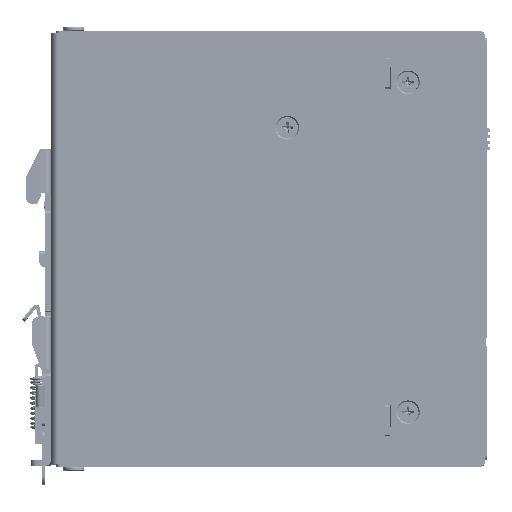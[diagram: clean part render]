
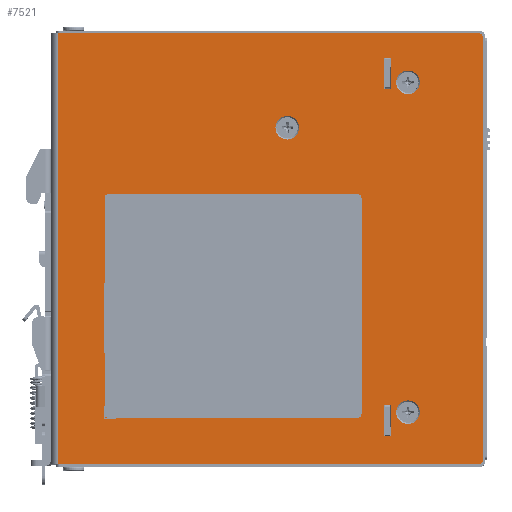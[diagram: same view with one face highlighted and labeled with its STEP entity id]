
A CAD part, top view. The second image highlights one B-rep face of the part: STEP entity #7521.
In plain terms, the highlighted planar face has unit normal (0, 0, 1).
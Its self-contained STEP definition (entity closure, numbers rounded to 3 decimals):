
#1766=DIRECTION('',(0.,-1.,0.));
#1767=VECTOR('',#1766,122.4);
#1768=CARTESIAN_POINT('',(0.5,61.2,25.));
#1769=LINE('',#1768,#1767);
#1780=CARTESIAN_POINT('',(120.1,-60.2,25.));
#1781=DIRECTION('',(0.,0.,-1.));
#1782=DIRECTION('',(1.,0.,0.));
#1783=AXIS2_PLACEMENT_3D('',#1780,#1781,#1782);
#1788=DIRECTION('',(-1.,0.,0.));
#1789=VECTOR('',#1788,119.6);
#1790=CARTESIAN_POINT('',(120.1,-61.2,25.));
#1791=LINE('',#1790,#1789);
#1795=DIRECTION('',(1.,0.,0.));
#1796=VECTOR('',#1795,119.6);
#1797=CARTESIAN_POINT('',(0.5,61.2,25.));
#1798=LINE('',#1797,#1796);
#1802=CARTESIAN_POINT('',(120.1,60.2,25.));
#1803=DIRECTION('',(0.,0.,-1.));
#1804=DIRECTION('',(0.,1.,0.));
#1805=AXIS2_PLACEMENT_3D('',#1802,#1803,#1804);
#1810=DIRECTION('',(0.,-1.,0.));
#1811=VECTOR('',#1810,120.4);
#1812=CARTESIAN_POINT('',(121.1,60.2,25.));
#1813=LINE('',#1812,#1811);
#1817=DIRECTION('',(-1.,0.,0.));
#1818=VECTOR('',#1817,1.9);
#1819=CARTESIAN_POINT('',(95.05,54.3,25.));
#1820=LINE('',#1819,#1818);
#1824=DIRECTION('',(0.,-1.,0.));
#1825=VECTOR('',#1824,8.8);
#1826=CARTESIAN_POINT('',(93.15,54.3,25.));
#1827=LINE('',#1826,#1825);
#1831=DIRECTION('',(1.,0.,0.));
#1832=VECTOR('',#1831,1.9);
#1833=CARTESIAN_POINT('',(93.15,45.5,25.));
#1834=LINE('',#1833,#1832);
#1838=DIRECTION('',(0.,1.,0.));
#1839=VECTOR('',#1838,8.8);
#1840=CARTESIAN_POINT('',(95.05,45.5,25.));
#1841=LINE('',#1840,#1839);
#1845=DIRECTION('',(-1.,0.,0.));
#1846=VECTOR('',#1845,1.9);
#1847=CARTESIAN_POINT('',(95.05,-44.5,25.));
#1848=LINE('',#1847,#1846);
#1852=DIRECTION('',(0.,-1.,0.));
#1853=VECTOR('',#1852,8.8);
#1854=CARTESIAN_POINT('',(93.15,-44.5,25.));
#1855=LINE('',#1854,#1853);
#1859=DIRECTION('',(1.,0.,0.));
#1860=VECTOR('',#1859,1.9);
#1861=CARTESIAN_POINT('',(93.15,-53.3,25.));
#1862=LINE('',#1861,#1860);
#1866=DIRECTION('',(0.,1.,0.));
#1867=VECTOR('',#1866,8.8);
#1868=CARTESIAN_POINT('',(95.05,-53.3,25.));
#1869=LINE('',#1868,#1867);
#1873=CARTESIAN_POINT('',(65.6,34.4,25.));
#1874=DIRECTION('',(0.,0.,1.));
#1875=DIRECTION('',(-1.,0.,0.));
#1876=AXIS2_PLACEMENT_3D('',#1873,#1874,#1875);
#1881=CARTESIAN_POINT('',(65.6,34.4,25.));
#1882=DIRECTION('',(0.,0.,1.));
#1883=DIRECTION('',(1.,0.,0.));
#1884=AXIS2_PLACEMENT_3D('',#1881,#1882,#1883);
#1889=CARTESIAN_POINT('',(99.9,-46.4,25.));
#1890=DIRECTION('',(0.,0.,1.));
#1891=DIRECTION('',(-1.,0.,0.));
#1892=AXIS2_PLACEMENT_3D('',#1889,#1890,#1891);
#1897=CARTESIAN_POINT('',(99.9,-46.4,25.));
#1898=DIRECTION('',(0.,0.,1.));
#1899=DIRECTION('',(1.,0.,0.));
#1900=AXIS2_PLACEMENT_3D('',#1897,#1898,#1899);
#1905=CARTESIAN_POINT('',(99.9,47.3,25.));
#1906=DIRECTION('',(0.,0.,1.));
#1907=DIRECTION('',(-1.,0.,0.));
#1908=AXIS2_PLACEMENT_3D('',#1905,#1906,#1907);
#1913=CARTESIAN_POINT('',(99.9,47.3,25.));
#1914=DIRECTION('',(0.,0.,1.));
#1915=DIRECTION('',(1.,0.,0.));
#1916=AXIS2_PLACEMENT_3D('',#1913,#1914,#1915);
#2357=DIRECTION('',(0.,1.,0.));
#2358=VECTOR('',#2357,20.);
#2359=CARTESIAN_POINT('',(13.5,-29.7,25.));
#2360=LINE('',#2359,#2358);
#2371=DIRECTION('',(1.,0.,0.));
#2372=VECTOR('',#2371,0.2);
#2373=CARTESIAN_POINT('',(13.5,-9.7,25.));
#2374=LINE('',#2373,#2372);
#2385=DIRECTION('',(0.,-1.,0.));
#2386=VECTOR('',#2385,20.);
#2387=CARTESIAN_POINT('',(13.7,-9.7,25.));
#2388=LINE('',#2387,#2386);
#2399=DIRECTION('',(-1.,0.,0.));
#2400=VECTOR('',#2399,0.2);
#2401=CARTESIAN_POINT('',(13.7,-29.7,25.));
#2402=LINE('',#2401,#2400);
#2441=DIRECTION('',(0.,1.,0.));
#2442=VECTOR('',#2441,3.5);
#2443=CARTESIAN_POINT('',(13.5,-48.2,25.));
#2444=LINE('',#2443,#2442);
#2455=DIRECTION('',(1.,0.,0.));
#2456=VECTOR('',#2455,0.2);
#2457=CARTESIAN_POINT('',(13.5,-44.7,25.));
#2458=LINE('',#2457,#2456);
#2469=DIRECTION('',(0.,-1.,0.));
#2470=VECTOR('',#2469,3.3);
#2471=CARTESIAN_POINT('',(13.7,-44.7,25.));
#2472=LINE('',#2471,#2470);
#2483=DIRECTION('',(1.,0.,0.));
#2484=VECTOR('',#2483,3.3);
#2485=CARTESIAN_POINT('',(13.7,-48.,25.));
#2486=LINE('',#2485,#2484);
#2497=DIRECTION('',(0.,-1.,0.));
#2498=VECTOR('',#2497,0.2);
#2499=CARTESIAN_POINT('',(17.,-48.,25.));
#2500=LINE('',#2499,#2498);
#2511=DIRECTION('',(-1.,0.,0.));
#2512=VECTOR('',#2511,3.5);
#2513=CARTESIAN_POINT('',(17.,-48.2,25.));
#2514=LINE('',#2513,#2512);
#6080=CARTESIAN_POINT('',(0.5,61.2,25.));
#6081=VERTEX_POINT('',#6080);
#6084=CARTESIAN_POINT('',(0.5,-61.2,25.));
#6085=VERTEX_POINT('',#6084);
#6086=CARTESIAN_POINT('',(121.1,-60.2,25.));
#6087=CARTESIAN_POINT('',(120.1,-61.2,25.));
#6088=VERTEX_POINT('',#6086);
#6089=VERTEX_POINT('',#6087);
#6090=CARTESIAN_POINT('',(120.1,61.2,25.));
#6091=VERTEX_POINT('',#6090);
#6092=CARTESIAN_POINT('',(121.1,60.2,25.));
#6093=VERTEX_POINT('',#6092);
#6094=CARTESIAN_POINT('',(95.05,54.3,25.));
#6095=CARTESIAN_POINT('',(93.15,54.3,25.));
#6096=VERTEX_POINT('',#6094);
#6097=VERTEX_POINT('',#6095);
#6098=CARTESIAN_POINT('',(93.15,45.5,25.));
#6099=VERTEX_POINT('',#6098);
#6100=CARTESIAN_POINT('',(95.05,45.5,25.));
#6101=VERTEX_POINT('',#6100);
#6102=CARTESIAN_POINT('',(95.05,-44.5,25.));
#6103=CARTESIAN_POINT('',(93.15,-44.5,25.));
#6104=VERTEX_POINT('',#6102);
#6105=VERTEX_POINT('',#6103);
#6106=CARTESIAN_POINT('',(93.15,-53.3,25.));
#6107=VERTEX_POINT('',#6106);
#6108=CARTESIAN_POINT('',(95.05,-53.3,25.));
#6109=VERTEX_POINT('',#6108);
#6110=CARTESIAN_POINT('',(13.5,-29.7,25.));
#6111=CARTESIAN_POINT('',(13.5,-9.7,25.));
#6112=VERTEX_POINT('',#6110);
#6113=VERTEX_POINT('',#6111);
#6114=CARTESIAN_POINT('',(13.7,-29.7,25.));
#6115=VERTEX_POINT('',#6114);
#6116=CARTESIAN_POINT('',(13.7,-9.7,25.));
#6117=VERTEX_POINT('',#6116);
#6118=CARTESIAN_POINT('',(13.5,-48.2,25.));
#6119=CARTESIAN_POINT('',(13.5,-44.7,25.));
#6120=VERTEX_POINT('',#6118);
#6121=VERTEX_POINT('',#6119);
#6122=CARTESIAN_POINT('',(17.,-48.2,25.));
#6123=VERTEX_POINT('',#6122);
#6124=CARTESIAN_POINT('',(17.,-48.,25.));
#6125=VERTEX_POINT('',#6124);
#6126=CARTESIAN_POINT('',(13.7,-48.,25.));
#6127=VERTEX_POINT('',#6126);
#6128=CARTESIAN_POINT('',(13.7,-44.7,25.));
#6129=VERTEX_POINT('',#6128);
#6130=CARTESIAN_POINT('',(62.25,34.4,25.));
#6131=CARTESIAN_POINT('',(68.95,34.4,25.));
#6132=VERTEX_POINT('',#6130);
#6133=VERTEX_POINT('',#6131);
#6134=CARTESIAN_POINT('',(96.55,-46.4,25.));
#6135=CARTESIAN_POINT('',(103.25,-46.4,25.));
#6136=VERTEX_POINT('',#6134);
#6137=VERTEX_POINT('',#6135);
#6138=CARTESIAN_POINT('',(96.55,47.3,25.));
#6139=CARTESIAN_POINT('',(103.25,47.3,25.));
#6140=VERTEX_POINT('',#6138);
#6141=VERTEX_POINT('',#6139);
#7441=CARTESIAN_POINT('',(-1.5,-61.2,25.));
#7442=DIRECTION('',(0.,0.,1.));
#7443=DIRECTION('',(0.,-1.,0.));
#7444=AXIS2_PLACEMENT_3D('',#7441,#7442,#7443);
#7445=PLANE('',#7444);
#7447=ORIENTED_EDGE('',*,*,#7446,.T.);
#7449=ORIENTED_EDGE('',*,*,#7448,.T.);
#7450=ORIENTED_EDGE('',*,*,#7432,.F.);
#7452=ORIENTED_EDGE('',*,*,#7451,.T.);
#7454=ORIENTED_EDGE('',*,*,#7453,.T.);
#7456=ORIENTED_EDGE('',*,*,#7455,.T.);
#7457=EDGE_LOOP('',(#7447,#7449,#7450,#7452,#7454,#7456));
#7458=FACE_OUTER_BOUND('',#7457,.F.);
#7460=ORIENTED_EDGE('',*,*,#7459,.T.);
#7462=ORIENTED_EDGE('',*,*,#7461,.T.);
#7464=ORIENTED_EDGE('',*,*,#7463,.T.);
#7466=ORIENTED_EDGE('',*,*,#7465,.T.);
#7467=EDGE_LOOP('',(#7460,#7462,#7464,#7466));
#7468=FACE_BOUND('',#7467,.F.);
#7470=ORIENTED_EDGE('',*,*,#7469,.T.);
#7472=ORIENTED_EDGE('',*,*,#7471,.T.);
#7474=ORIENTED_EDGE('',*,*,#7473,.T.);
#7476=ORIENTED_EDGE('',*,*,#7475,.T.);
#7477=EDGE_LOOP('',(#7470,#7472,#7474,#7476));
#7478=FACE_BOUND('',#7477,.F.);
#7480=ORIENTED_EDGE('',*,*,#7479,.F.);
#7482=ORIENTED_EDGE('',*,*,#7481,.F.);
#7484=ORIENTED_EDGE('',*,*,#7483,.F.);
#7486=ORIENTED_EDGE('',*,*,#7485,.F.);
#7487=EDGE_LOOP('',(#7480,#7482,#7484,#7486));
#7488=FACE_BOUND('',#7487,.F.);
#7490=ORIENTED_EDGE('',*,*,#7489,.F.);
#7492=ORIENTED_EDGE('',*,*,#7491,.F.);
#7494=ORIENTED_EDGE('',*,*,#7493,.F.);
#7496=ORIENTED_EDGE('',*,*,#7495,.F.);
#7498=ORIENTED_EDGE('',*,*,#7497,.F.);
#7500=ORIENTED_EDGE('',*,*,#7499,.F.);
#7501=EDGE_LOOP('',(#7490,#7492,#7494,#7496,#7498,#7500));
#7502=FACE_BOUND('',#7501,.F.);
#7504=ORIENTED_EDGE('',*,*,#7503,.T.);
#7506=ORIENTED_EDGE('',*,*,#7505,.T.);
#7507=EDGE_LOOP('',(#7504,#7506));
#7508=FACE_BOUND('',#7507,.F.);
#7510=ORIENTED_EDGE('',*,*,#7509,.T.);
#7512=ORIENTED_EDGE('',*,*,#7511,.T.);
#7513=EDGE_LOOP('',(#7510,#7512));
#7514=FACE_BOUND('',#7513,.F.);
#7516=ORIENTED_EDGE('',*,*,#7515,.T.);
#7518=ORIENTED_EDGE('',*,*,#7517,.T.);
#7519=EDGE_LOOP('',(#7516,#7518));
#7520=FACE_BOUND('',#7519,.F.);
#7521=ADVANCED_FACE('',(#7458,#7468,#7478,#7488,#7502,#7508,#7514,#7520),#7445,
.T.);
#1784=CIRCLE('',#1783,1.);
#1806=CIRCLE('',#1805,1.);
#1877=CIRCLE('',#1876,3.35);
#1885=CIRCLE('',#1884,3.35);
#1893=CIRCLE('',#1892,3.35);
#1901=CIRCLE('',#1900,3.35);
#1909=CIRCLE('',#1908,3.35);
#1917=CIRCLE('',#1916,3.35);
#7432=EDGE_CURVE('',#6081,#6085,#1769,.T.);
#7446=EDGE_CURVE('',#6088,#6089,#1784,.T.);
#7448=EDGE_CURVE('',#6089,#6085,#1791,.T.);
#7451=EDGE_CURVE('',#6081,#6091,#1798,.T.);
#7453=EDGE_CURVE('',#6091,#6093,#1806,.T.);
#7455=EDGE_CURVE('',#6093,#6088,#1813,.T.);
#7459=EDGE_CURVE('',#6096,#6097,#1820,.T.);
#7461=EDGE_CURVE('',#6097,#6099,#1827,.T.);
#7463=EDGE_CURVE('',#6099,#6101,#1834,.T.);
#7465=EDGE_CURVE('',#6101,#6096,#1841,.T.);
#7469=EDGE_CURVE('',#6104,#6105,#1848,.T.);
#7471=EDGE_CURVE('',#6105,#6107,#1855,.T.);
#7473=EDGE_CURVE('',#6107,#6109,#1862,.T.);
#7475=EDGE_CURVE('',#6109,#6104,#1869,.T.);
#7479=EDGE_CURVE('',#6112,#6113,#2360,.T.);
#7481=EDGE_CURVE('',#6115,#6112,#2402,.T.);
#7483=EDGE_CURVE('',#6117,#6115,#2388,.T.);
#7485=EDGE_CURVE('',#6113,#6117,#2374,.T.);
#7489=EDGE_CURVE('',#6120,#6121,#2444,.T.);
#7491=EDGE_CURVE('',#6123,#6120,#2514,.T.);
#7493=EDGE_CURVE('',#6125,#6123,#2500,.T.);
#7495=EDGE_CURVE('',#6127,#6125,#2486,.T.);
#7497=EDGE_CURVE('',#6129,#6127,#2472,.T.);
#7499=EDGE_CURVE('',#6121,#6129,#2458,.T.);
#7503=EDGE_CURVE('',#6132,#6133,#1877,.T.);
#7505=EDGE_CURVE('',#6133,#6132,#1885,.T.);
#7509=EDGE_CURVE('',#6136,#6137,#1893,.T.);
#7511=EDGE_CURVE('',#6137,#6136,#1901,.T.);
#7515=EDGE_CURVE('',#6140,#6141,#1909,.T.);
#7517=EDGE_CURVE('',#6141,#6140,#1917,.T.);
